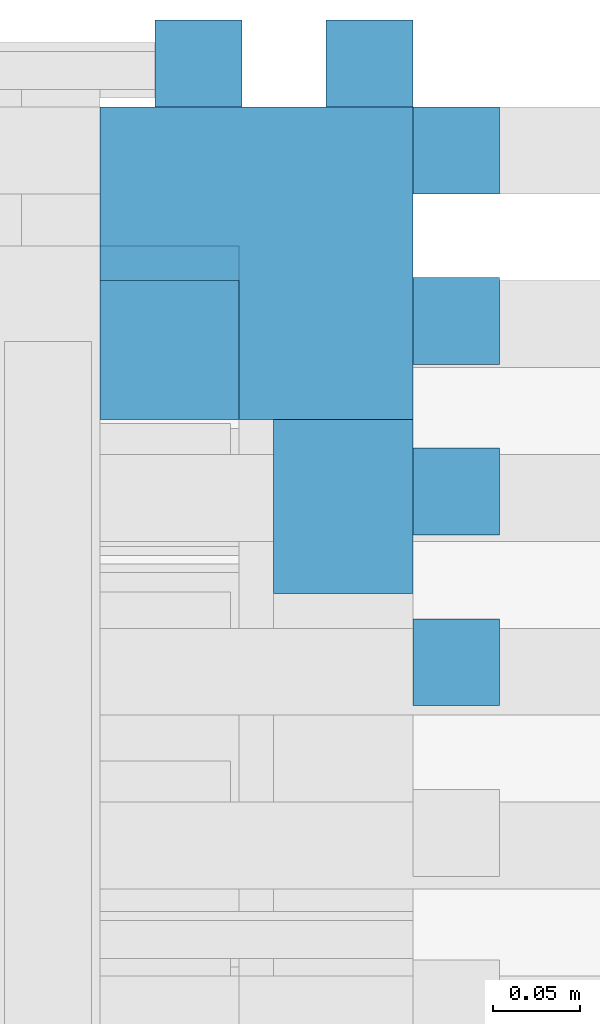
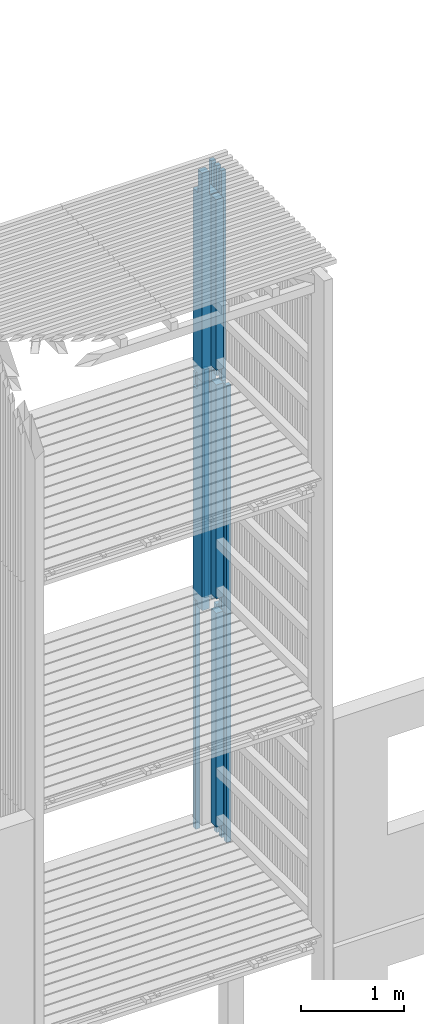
# One storey, part 57 of 182: 17 beams.
"""IFC2X3 building model written with IfcOpenShell, lengths in metres."""

from ifc_helpers import new_model, si_unit, frame, origin, place, context, project, spatial, faceted_brep, element, save


model = new_model("IFC2X3")

# Units and contexts
model_context = context("Model", 3, precision=1e-06, world=origin())
ifc_project = project(units=[si_unit("LENGTHUNIT", "METRE"), si_unit("PLANEANGLEUNIT", "RADIAN")], contexts=[model_context])

# Site, building, storey
site = spatial("IfcSite", under=ifc_project, CompositionType="ELEMENT")
building = spatial("IfcBuilding", under=site, CompositionType="ELEMENT")
storey = spatial("IfcBuildingStorey", under=building, Name="vs", CompositionType="ELEMENT", Elevation=-0.85)

# Beams
placement = place(None, origin())
beam_1_placement = place(placement, frame((16.67919731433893, 12.746895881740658, 2.575000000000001), z_axis=(-1.0, 0.0, 0.0), x_axis=(0.0, 0.0, 1.0)))
element("IfcBeam", 1, at=beam_1_placement, inside=storey, Name="Bardage", context=model_context, shape_type="Brep", body=[
    faceted_brep([(0.0, -0.025000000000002, 0.024999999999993), (0.0, 0.024999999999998, 0.024999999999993), (0.0, 0.024999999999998, -0.025000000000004), (0.0, -0.025000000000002, -0.025000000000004), (2.699961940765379, 0.025000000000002, -0.025000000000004), (2.699961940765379, 0.025000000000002, 0.024999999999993), (2.699961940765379, -0.025000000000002, 0.024999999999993), (2.699961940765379, -0.025000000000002, -0.025000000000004), (0.0, -0.025000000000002, -0.025000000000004), (0.0, 0.024999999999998, -0.025000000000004), (2.699961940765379, 0.025000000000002, -0.025000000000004), (2.699961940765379, -0.025000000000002, -0.025000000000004), (2.699961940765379, 0.025000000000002, -0.025000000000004), (0.0, 0.024999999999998, -0.025000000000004), (0.0, 0.024999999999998, 0.024999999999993), (2.699961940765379, 0.025000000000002, 0.024999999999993), (2.699961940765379, 0.025000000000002, 0.024999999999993), (0.0, 0.024999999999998, 0.024999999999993), (0.0, -0.025000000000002, 0.024999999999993), (2.699961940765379, -0.025000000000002, 0.024999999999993), (2.699961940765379, -0.025000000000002, 0.024999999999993), (0.0, -0.025000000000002, 0.024999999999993), (0.0, -0.025000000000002, -0.025000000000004), (2.699961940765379, -0.025000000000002, -0.025000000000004)], [[[0, 1, 2, 3]], [[4, 5, 6, 7]], [[8, 9, 10, 11]], [[12, 13, 14, 15]], [[16, 17, 18, 19]], [[20, 21, 22, 23]]]),
])
beam_2_placement = place(placement, frame((16.67919731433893, 12.746895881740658, 7.974999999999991), z_axis=(-1.0, 0.0, 0.0), x_axis=(0.0, 0.0, 1.0)))
element("IfcBeam", 2, at=beam_2_placement, inside=storey, Name="Bardage", context=model_context, shape_type="Brep", body=[
    faceted_brep([(2.479999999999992, -0.025000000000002, 0.024999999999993), (2.479999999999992, -0.025000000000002, -0.025000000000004), (2.479999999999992, 0.025000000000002, -0.025000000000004), (2.479999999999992, 0.025000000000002, 0.024999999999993), (0.0, 0.024999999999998, 0.024999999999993), (0.0, -0.025000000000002, 0.024999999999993), (2.479999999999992, -0.025000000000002, 0.024999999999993), (2.479999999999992, 0.025000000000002, 0.024999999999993), (0.0, -0.025000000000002, 0.024999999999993), (0.0, 0.024999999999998, 0.024999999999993), (0.0, 0.024999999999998, -0.025000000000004), (0.0, -0.025000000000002, -0.025000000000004), (0.0, 0.024999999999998, -0.025000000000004), (0.0, 0.024999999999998, 0.024999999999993), (2.479999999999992, 0.025000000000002, 0.024999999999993), (2.479999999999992, 0.025000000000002, -0.025000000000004), (0.0, -0.025000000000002, -0.025000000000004), (0.0, 0.024999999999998, -0.025000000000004), (2.479999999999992, 0.025000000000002, -0.025000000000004), (2.479999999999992, -0.025000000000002, -0.025000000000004), (2.479999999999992, -0.025000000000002, 0.024999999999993), (0.0, -0.025000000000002, 0.024999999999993), (0.0, -0.025000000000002, -0.025000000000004), (2.479999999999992, -0.025000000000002, -0.025000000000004)], [[[0, 1, 2, 3]], [[4, 5, 6, 7]], [[8, 9, 10, 11]], [[12, 13, 14, 15]], [[16, 17, 18, 19]], [[20, 21, 22, 23]]]),
])
beam_3_placement = place(placement, frame((16.67919731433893, 12.550532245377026, 2.575000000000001), z_axis=(-1.0, 0.0, 0.0), x_axis=(0.0, 0.0, 1.0)))
element("IfcBeam", 3, at=beam_3_placement, inside=storey, Name="Bardage", context=model_context, shape_type="Brep", body=[
    faceted_brep([(0.0, -0.025000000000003, 0.024999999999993), (0.0, 0.024999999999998, 0.024999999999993), (0.0, 0.024999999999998, -0.025000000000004), (0.0, -0.025000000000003, -0.025000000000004), (2.699961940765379, 0.024999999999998, -0.025000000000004), (2.699961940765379, 0.024999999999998, 0.024999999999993), (2.699961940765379, -0.025000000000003, 0.024999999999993), (2.699961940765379, -0.025000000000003, -0.025000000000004), (0.0, -0.025000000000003, -0.025000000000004), (0.0, 0.024999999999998, -0.025000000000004), (2.699961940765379, 0.024999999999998, -0.025000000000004), (2.699961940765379, -0.025000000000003, -0.025000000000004), (2.699961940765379, 0.024999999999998, -0.025000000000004), (0.0, 0.024999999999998, -0.025000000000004), (0.0, 0.024999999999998, 0.024999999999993), (2.699961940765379, 0.024999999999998, 0.024999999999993), (2.699961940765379, 0.024999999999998, 0.024999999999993), (0.0, 0.024999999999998, 0.024999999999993), (0.0, -0.025000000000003, 0.024999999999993), (2.699961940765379, -0.025000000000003, 0.024999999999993), (2.699961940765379, -0.025000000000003, 0.024999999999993), (0.0, -0.025000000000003, 0.024999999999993), (0.0, -0.025000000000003, -0.025000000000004), (2.699961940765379, -0.025000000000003, -0.025000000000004)], [[[0, 1, 2, 3]], [[4, 5, 6, 7]], [[8, 9, 10, 11]], [[12, 13, 14, 15]], [[16, 17, 18, 19]], [[20, 21, 22, 23]]]),
])
beam_4_placement = place(placement, frame((16.531015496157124, 12.895077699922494, 2.575000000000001), z_axis=(0.0, -1.0, 0.0), x_axis=(0.0, 0.0, 1.0)))
element("IfcBeam", 4, at=beam_4_placement, inside=storey, Name="Bardage", context=model_context, shape_type="Brep", body=[
    faceted_brep([(2.699961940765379, -0.024999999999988, 0.025000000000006), (2.699961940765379, -0.025000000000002, -0.024999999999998), (2.699961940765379, 0.024999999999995, -0.025000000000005), (2.699961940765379, 0.025000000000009, 0.024999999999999), (0.0, -0.024999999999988, 0.025000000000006), (2.699961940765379, -0.024999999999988, 0.025000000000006), (2.699961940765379, 0.025000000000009, 0.024999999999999), (0.0, 0.025000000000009, 0.024999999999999), (0.0, -0.024999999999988, 0.025000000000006), (0.0, 0.025000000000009, 0.024999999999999), (0.0, 0.024999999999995, -0.025000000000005), (0.0, -0.025000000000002, -0.024999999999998), (0.0, -0.024999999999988, 0.025000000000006), (0.0, -0.025000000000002, -0.024999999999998), (2.699961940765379, -0.025000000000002, -0.024999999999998), (2.699961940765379, -0.024999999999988, 0.025000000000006), (0.0, -0.025000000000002, -0.024999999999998), (0.0, 0.024999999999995, -0.025000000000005), (2.699961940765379, 0.024999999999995, -0.025000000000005), (2.699961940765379, -0.025000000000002, -0.024999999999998), (0.0, 0.024999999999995, -0.025000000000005), (0.0, 0.025000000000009, 0.024999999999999), (2.699961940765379, 0.025000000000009, 0.024999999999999), (2.699961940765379, 0.024999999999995, -0.025000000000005)], [[[0, 1, 2, 3]], [[4, 5, 6, 7]], [[8, 9, 10, 11]], [[12, 13, 14, 15]], [[16, 17, 18, 19]], [[20, 21, 22, 23]]]),
])
beam_5_placement = place(placement, frame((16.67919731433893, 12.845077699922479, 5.274999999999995), z_axis=(-1.0, 0.0, 0.0), x_axis=(0.0, 0.0, 1.0)))
element("IfcBeam", 5, at=beam_5_placement, inside=storey, Name="Bardage", context=model_context, shape_type="Brep", body=[
    faceted_brep([(1e-15, -0.025000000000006, 0.024999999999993), (1e-15, 0.024999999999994, 0.024999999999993), (1e-15, 0.024999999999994, -0.025000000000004), (1e-15, -0.025000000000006, -0.025000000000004), (2.699999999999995, -0.025000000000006, -0.025000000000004), (2.699999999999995, 0.024999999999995, -0.025000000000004), (2.699999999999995, 0.024999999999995, 0.024999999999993), (2.699999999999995, -0.025000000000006, 0.024999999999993), (1e-15, -0.025000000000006, 0.024999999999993), (1e-15, -0.025000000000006, -0.025000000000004), (2.699999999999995, -0.025000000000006, -0.025000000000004), (2.699999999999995, -0.025000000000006, 0.024999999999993), (2.699999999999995, -0.025000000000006, -0.025000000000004), (1e-15, -0.025000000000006, -0.025000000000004), (1e-15, 0.024999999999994, -0.025000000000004), (2.699999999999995, 0.024999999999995, -0.025000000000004), (2.699999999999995, 0.024999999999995, -0.025000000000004), (1e-15, 0.024999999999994, -0.025000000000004), (1e-15, 0.024999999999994, 0.024999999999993), (2.699999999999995, 0.024999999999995, 0.024999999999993), (2.699999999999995, 0.024999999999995, 0.024999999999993), (1e-15, 0.024999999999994, 0.024999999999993), (1e-15, -0.025000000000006, 0.024999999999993), (2.699999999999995, -0.025000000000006, 0.024999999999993)], [[[0, 1, 2, 3]], [[4, 5, 6, 7]], [[8, 9, 10, 11]], [[12, 13, 14, 15]], [[16, 17, 18, 19]], [[20, 21, 22, 23]]]),
])
beam_6_placement = place(placement, frame((16.67919731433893, 12.648714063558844, 2.575000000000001), z_axis=(-1.0, 0.0, 0.0), x_axis=(0.0, 0.0, 1.0)))
element("IfcBeam", 6, at=beam_6_placement, inside=storey, Name="Bardage", context=model_context, shape_type="Brep", body=[
    faceted_brep([(0.0, -0.025000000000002, 0.024999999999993), (0.0, 0.024999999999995, 0.024999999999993), (0.0, 0.024999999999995, -0.025000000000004), (0.0, -0.025000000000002, -0.025000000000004), (2.699961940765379, 0.024999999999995, -0.025000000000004), (2.699961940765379, 0.024999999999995, 0.024999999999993), (2.699961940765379, -0.025000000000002, 0.024999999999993), (2.699961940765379, -0.025000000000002, -0.025000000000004), (0.0, -0.025000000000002, -0.025000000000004), (0.0, 0.024999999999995, -0.025000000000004), (2.699961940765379, 0.024999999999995, -0.025000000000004), (2.699961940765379, -0.025000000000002, -0.025000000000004), (2.699961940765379, 0.024999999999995, -0.025000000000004), (0.0, 0.024999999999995, -0.025000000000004), (0.0, 0.024999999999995, 0.024999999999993), (2.699961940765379, 0.024999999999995, 0.024999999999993), (2.699961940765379, 0.024999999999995, 0.024999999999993), (0.0, 0.024999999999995, 0.024999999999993), (0.0, -0.025000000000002, 0.024999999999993), (2.699961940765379, -0.025000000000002, 0.024999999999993), (2.699961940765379, -0.025000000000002, 0.024999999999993), (0.0, -0.025000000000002, 0.024999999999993), (0.0, -0.025000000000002, -0.025000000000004), (2.699961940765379, -0.025000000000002, -0.025000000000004)], [[[0, 1, 2, 3]], [[4, 5, 6, 7]], [[8, 9, 10, 11]], [[12, 13, 14, 15]], [[16, 17, 18, 19]], [[20, 21, 22, 23]]]),
])
beam_7_placement = place(placement, frame((16.564197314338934, 12.780077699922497, 7.979999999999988), z_axis=(0.0, -1.0, 0.0), x_axis=(0.0, 0.0, 1.0)))
element("IfcBeam", 7, at=beam_7_placement, inside=storey, Name="Poteau", context=model_context, shape_type="Brep", body=[
    faceted_brep([(2.474999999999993, 0.009999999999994, 0.089999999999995), (2.474999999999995, 0.009999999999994, 0.009999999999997), (2.474999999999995, 0.090000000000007, 0.009999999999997), (2.474999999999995, 0.090000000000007, 0.089999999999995), (2.194999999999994, 0.009999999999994, 0.089999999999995), (2.194999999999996, 0.009999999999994, 0.009999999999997), (2.474999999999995, 0.009999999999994, 0.009999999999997), (2.474999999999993, 0.009999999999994, 0.089999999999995), (2.194999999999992, -0.09, 0.089999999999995), (2.194999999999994, -0.09, -0.090000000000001), (2.194999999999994, 0.090000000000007, -0.090000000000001), (2.194999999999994, 0.090000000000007, 0.009999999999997), (2.194999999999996, 0.009999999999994, 0.009999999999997), (2.194999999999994, 0.009999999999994, 0.089999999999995), (2.474999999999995, 0.090000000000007, 0.009999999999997), (2.474999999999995, 0.009999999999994, 0.009999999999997), (2.194999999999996, 0.009999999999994, 0.009999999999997), (2.194999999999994, 0.090000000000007, 0.009999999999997), (0.059999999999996, 0.090000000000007, -0.010000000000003), (-1e-15, 0.090000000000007, -0.010000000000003), (-1e-15, 0.090000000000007, 0.089999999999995), (2.474999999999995, 0.090000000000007, 0.089999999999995), (2.474999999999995, 0.090000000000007, 0.009999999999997), (2.194999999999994, 0.090000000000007, 0.009999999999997), (2.194999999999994, 0.090000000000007, -0.090000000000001), (0.059999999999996, 0.090000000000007, -0.090000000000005), (0.139999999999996, -0.09, 0.089999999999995), (0.139999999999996, 0.009999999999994, 0.089999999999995), (0.139999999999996, 0.009999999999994, -0.090000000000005), (0.139999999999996, -0.09, -0.090000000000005), (-1e-15, 0.090000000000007, -0.010000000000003), (0.059999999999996, 0.090000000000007, -0.010000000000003), (0.059999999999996, 0.009999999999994, -0.009999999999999), (-1e-15, 0.009999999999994, -0.010000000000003), (-1e-15, 0.090000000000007, 0.089999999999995), (-1e-15, 0.090000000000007, -0.010000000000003), (-1e-15, 0.009999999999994, -0.010000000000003), (-1e-15, 0.009999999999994, 0.089999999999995), (0.139999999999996, 0.009999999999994, -0.090000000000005), (0.139999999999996, 0.009999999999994, 0.089999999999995), (-1e-15, 0.009999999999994, 0.089999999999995), (-1e-15, 0.009999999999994, -0.010000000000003), (0.059999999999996, 0.009999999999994, -0.009999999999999), (0.059999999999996, 0.009999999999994, -0.090000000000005), (0.059999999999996, 0.009999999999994, -0.090000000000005), (0.059999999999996, 0.009999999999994, -0.009999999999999), (0.059999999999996, 0.090000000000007, -0.010000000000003), (0.059999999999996, 0.090000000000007, -0.090000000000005), (0.139999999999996, -0.09, -0.090000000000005), (0.139999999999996, 0.009999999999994, -0.090000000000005), (0.059999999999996, 0.009999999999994, -0.090000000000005), (0.059999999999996, 0.090000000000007, -0.090000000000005), (2.194999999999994, 0.090000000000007, -0.090000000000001), (2.194999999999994, -0.09, -0.090000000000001), (2.194999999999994, -0.09, -0.090000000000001), (2.194999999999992, -0.09, 0.089999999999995), (0.139999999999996, -0.09, 0.089999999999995), (0.139999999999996, -0.09, -0.090000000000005), (-1e-15, 0.090000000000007, 0.089999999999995), (-1e-15, 0.009999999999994, 0.089999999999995), (0.139999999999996, 0.009999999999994, 0.089999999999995), (0.139999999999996, -0.09, 0.089999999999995), (2.194999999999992, -0.09, 0.089999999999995), (2.194999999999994, 0.009999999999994, 0.089999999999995), (2.474999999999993, 0.009999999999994, 0.089999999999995), (2.474999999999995, 0.090000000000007, 0.089999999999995)], [[[0, 1, 2, 3]], [[4, 5, 6, 7]], [[8, 9, 10, 11, 12, 13]], [[14, 15, 16, 17]], [[18, 19, 20, 21, 22, 23, 24, 25]], [[26, 27, 28, 29]], [[30, 31, 32, 33]], [[34, 35, 36, 37]], [[38, 39, 40, 41, 42, 43]], [[44, 45, 46, 47]], [[48, 49, 50, 51, 52, 53]], [[54, 55, 56, 57]], [[58, 59, 60, 61, 62, 63, 64, 65]]]),
])
beam_8_placement = place(placement, frame((16.67919731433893, 12.648714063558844, 5.274999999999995), z_axis=(-1.0, 0.0, 0.0), x_axis=(0.0, 0.0, 1.0)))
element("IfcBeam", 8, at=beam_8_placement, inside=storey, Name="Bardage", context=model_context, shape_type="Brep", body=[
    faceted_brep([(1e-15, -0.025000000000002, 0.024999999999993), (1e-15, 0.024999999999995, 0.024999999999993), (1e-15, 0.024999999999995, -0.025000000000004), (1e-15, -0.025000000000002, -0.025000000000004), (2.699999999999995, -0.025000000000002, -0.025000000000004), (2.699999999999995, 0.024999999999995, -0.025000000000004), (2.699999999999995, 0.024999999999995, 0.024999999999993), (2.699999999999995, -0.025000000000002, 0.024999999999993), (1e-15, -0.025000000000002, 0.024999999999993), (1e-15, -0.025000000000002, -0.025000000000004), (2.699999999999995, -0.025000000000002, -0.025000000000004), (2.699999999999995, -0.025000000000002, 0.024999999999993), (2.699999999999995, -0.025000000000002, -0.025000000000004), (1e-15, -0.025000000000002, -0.025000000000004), (1e-15, 0.024999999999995, -0.025000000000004), (2.699999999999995, 0.024999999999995, -0.025000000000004), (2.699999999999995, 0.024999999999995, -0.025000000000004), (1e-15, 0.024999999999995, -0.025000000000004), (1e-15, 0.024999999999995, 0.024999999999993), (2.699999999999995, 0.024999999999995, 0.024999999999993), (2.699999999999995, 0.024999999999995, 0.024999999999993), (1e-15, 0.024999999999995, 0.024999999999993), (1e-15, -0.025000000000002, 0.024999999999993), (2.699999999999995, -0.025000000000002, 0.024999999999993)], [[[0, 1, 2, 3]], [[4, 5, 6, 7]], [[8, 9, 10, 11]], [[12, 13, 14, 15]], [[16, 17, 18, 19]], [[20, 21, 22, 23]]]),
])
beam_9_placement = place(placement, frame((16.614197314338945, 12.640077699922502, 2.746999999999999), z_axis=(0.0, -1.0, 0.0), x_axis=(0.0, 0.0, 1.0)))
element("IfcBeam", 9, at=beam_9_placement, inside=storey, Name="Support bardage", context=model_context, shape_type="Brep", body=[
    faceted_brep([(2.527961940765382, -0.039999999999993, -0.05), (2.527961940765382, 0.04000000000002, -0.05), (2.527961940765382, 0.04000000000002, 0.050000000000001), (2.527961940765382, -0.039999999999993, 0.050000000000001), (0.0, -0.039999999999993, 0.050000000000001), (0.0, -0.039999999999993, -0.05), (2.527961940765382, -0.039999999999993, -0.05), (2.527961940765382, -0.039999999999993, 0.050000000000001), (0.0, -0.039999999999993, -0.05), (0.0, -0.039999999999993, 0.050000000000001), (0.0, 0.04000000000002, 0.050000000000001), (0.0, 0.04000000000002, -0.05), (2.527961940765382, -0.039999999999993, -0.05), (0.0, -0.039999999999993, -0.05), (0.0, 0.04000000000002, -0.05), (2.527961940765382, 0.04000000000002, -0.05), (2.527961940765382, 0.04000000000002, -0.05), (0.0, 0.04000000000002, -0.05), (0.0, 0.04000000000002, 0.050000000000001), (2.527961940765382, 0.04000000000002, 0.050000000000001), (2.527961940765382, 0.04000000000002, 0.050000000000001), (0.0, 0.04000000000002, 0.050000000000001), (0.0, -0.039999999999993, 0.050000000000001), (2.527961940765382, -0.039999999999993, 0.050000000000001)], [[[0, 1, 2, 3]], [[4, 5, 6, 7]], [[8, 9, 10, 11]], [[12, 13, 14, 15]], [[16, 17, 18, 19]], [[20, 21, 22, 23]]]),
])
beam_10_placement = place(placement, frame((16.531015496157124, 12.895077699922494, 5.274999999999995), z_axis=(0.0, -1.0, 0.0), x_axis=(0.0, 0.0, 1.0)))
element("IfcBeam", 10, at=beam_10_placement, inside=storey, Name="Bardage", context=model_context, shape_type="Brep", body=[
    faceted_brep([(2.699999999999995, 0.025000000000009, 0.024999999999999), (2.699999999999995, -0.024999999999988, 0.025000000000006), (2.699999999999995, -0.025000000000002, -0.024999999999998), (2.699999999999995, 0.024999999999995, -0.025000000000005), (1e-15, 0.025000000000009, 0.024999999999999), (2.699999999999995, 0.025000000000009, 0.024999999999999), (2.699999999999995, 0.024999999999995, -0.025000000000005), (1e-15, 0.024999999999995, -0.025000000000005), (1e-15, -0.024999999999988, 0.025000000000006), (1e-15, 0.025000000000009, 0.024999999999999), (1e-15, 0.024999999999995, -0.025000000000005), (1e-15, -0.025000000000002, -0.024999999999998), (1e-15, 0.025000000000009, 0.024999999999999), (1e-15, -0.024999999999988, 0.025000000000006), (2.699999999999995, -0.024999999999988, 0.025000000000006), (2.699999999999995, 0.025000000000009, 0.024999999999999), (1e-15, -0.024999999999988, 0.025000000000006), (1e-15, -0.025000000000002, -0.024999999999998), (2.699999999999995, -0.025000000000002, -0.024999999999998), (2.699999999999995, -0.024999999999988, 0.025000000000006), (1e-15, -0.025000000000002, -0.024999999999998), (1e-15, 0.024999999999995, -0.025000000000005), (2.699999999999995, 0.024999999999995, -0.025000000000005), (2.699999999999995, -0.025000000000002, -0.024999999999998)], [[[0, 1, 2, 3]], [[4, 5, 6, 7]], [[8, 9, 10, 11]], [[12, 13, 14, 15]], [[16, 17, 18, 19]], [[20, 21, 22, 23]]]),
])
beam_11_placement = place(placement, frame((16.62919731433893, 12.895077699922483, 5.274999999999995), z_axis=(0.0, -1.0, 0.0), x_axis=(0.0, 0.0, 1.0)))
element("IfcBeam", 11, at=beam_11_placement, inside=storey, Name="Bardage", context=model_context, shape_type="Brep", body=[
    faceted_brep([(2.699999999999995, 0.025000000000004, 0.025000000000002), (2.699999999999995, -0.025000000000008, 0.025000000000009), (2.699999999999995, -0.025000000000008, -0.024999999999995), (2.699999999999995, 0.02499999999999, -0.025000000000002), (1e-15, 0.025000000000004, 0.025000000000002), (2.699999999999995, 0.025000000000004, 0.025000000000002), (2.699999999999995, 0.02499999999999, -0.025000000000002), (1e-15, 0.02499999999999, -0.025000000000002), (1e-15, -0.025000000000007, 0.025000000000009), (1e-15, 0.025000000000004, 0.025000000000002), (1e-15, 0.02499999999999, -0.025000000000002), (1e-15, -0.025000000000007, -0.024999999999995), (1e-15, 0.025000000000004, 0.025000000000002), (1e-15, -0.025000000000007, 0.025000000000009), (2.699999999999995, -0.025000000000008, 0.025000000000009), (2.699999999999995, 0.025000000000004, 0.025000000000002), (1e-15, -0.025000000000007, 0.025000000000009), (1e-15, -0.025000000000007, -0.024999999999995), (2.699999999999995, -0.025000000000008, -0.024999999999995), (2.699999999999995, -0.025000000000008, 0.025000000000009), (1e-15, -0.025000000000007, -0.024999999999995), (1e-15, 0.02499999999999, -0.025000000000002), (2.699999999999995, 0.02499999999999, -0.025000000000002), (2.699999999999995, -0.025000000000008, -0.024999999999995)], [[[0, 1, 2, 3]], [[4, 5, 6, 7]], [[8, 9, 10, 11]], [[12, 13, 14, 15]], [[16, 17, 18, 19]], [[20, 21, 22, 23]]]),
])
beam_12_placement = place(placement, frame((16.564197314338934, 12.780077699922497, 5.279999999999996), z_axis=(0.0, -1.0, 0.0), x_axis=(0.0, 0.0, 1.0)))
element("IfcBeam", 12, at=beam_12_placement, inside=storey, Name="Poteau", context=model_context, shape_type="Brep", body=[
    faceted_brep([(0.139999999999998, -0.09, 0.089999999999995), (0.139999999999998, 0.009999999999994, 0.089999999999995), (0.139999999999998, 0.009999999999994, -0.090000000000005), (0.139999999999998, -0.09, -0.090000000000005), (0.059999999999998, 0.090000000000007, -0.010000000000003), (0.059999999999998, 0.009999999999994, -0.009999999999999), (-1e-15, 0.009999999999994, -0.009999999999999), (-1e-15, 0.090000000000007, -0.009999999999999), (-1e-15, 0.090000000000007, 0.089999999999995), (-1e-15, 0.090000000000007, -0.009999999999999), (-1e-15, 0.009999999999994, -0.009999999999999), (-1e-15, 0.009999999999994, 0.089999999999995), (0.139999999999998, 0.009999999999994, -0.090000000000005), (0.139999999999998, 0.009999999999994, 0.089999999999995), (-1e-15, 0.009999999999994, 0.089999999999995), (-1e-15, 0.009999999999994, -0.009999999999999), (0.059999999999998, 0.009999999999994, -0.009999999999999), (0.059999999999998, 0.009999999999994, -0.090000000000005), (0.059999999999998, 0.009999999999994, -0.090000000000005), (0.059999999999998, 0.009999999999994, -0.009999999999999), (0.059999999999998, 0.090000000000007, -0.010000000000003), (0.059999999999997, 0.090000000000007, -0.090000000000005), (0.139999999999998, -0.09, -0.090000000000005), (0.139999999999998, 0.009999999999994, -0.090000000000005), (0.059999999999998, 0.009999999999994, -0.090000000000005), (0.059999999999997, 0.090000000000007, -0.090000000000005), (2.559999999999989, 0.090000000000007, -0.090000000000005), (2.559999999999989, -0.09, -0.090000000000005), (2.559999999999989, -0.09, 0.089999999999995), (0.139999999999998, -0.09, 0.089999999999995), (0.139999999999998, -0.09, -0.090000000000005), (2.559999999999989, -0.09, -0.090000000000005), (2.559999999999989, 0.090000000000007, -0.010000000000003), (2.559999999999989, 0.090000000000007, -0.090000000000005), (0.059999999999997, 0.090000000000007, -0.090000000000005), (0.059999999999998, 0.090000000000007, -0.010000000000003), (-1e-15, 0.090000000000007, -0.009999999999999), (-1e-15, 0.090000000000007, 0.089999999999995), (2.69999999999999, 0.090000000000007, 0.089999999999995), (2.69999999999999, 0.090000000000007, -0.009999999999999), (2.69999999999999, 0.009999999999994, 0.089999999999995), (2.69999999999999, 0.090000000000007, 0.089999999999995), (-1e-15, 0.090000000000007, 0.089999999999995), (-1e-15, 0.009999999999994, 0.089999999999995), (0.139999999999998, 0.009999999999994, 0.089999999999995), (0.139999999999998, -0.09, 0.089999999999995), (2.559999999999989, -0.09, 0.089999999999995), (2.559999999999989, 0.009999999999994, 0.089999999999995), (2.559999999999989, 0.090000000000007, -0.010000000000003), (2.69999999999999, 0.090000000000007, -0.009999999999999), (2.69999999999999, 0.009999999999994, -0.010000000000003), (2.559999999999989, 0.009999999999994, -0.010000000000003), (2.559999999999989, 0.009999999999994, 0.089999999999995), (2.559999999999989, -0.09, 0.089999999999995), (2.559999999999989, -0.09, -0.090000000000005), (2.559999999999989, 0.090000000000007, -0.090000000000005), (2.559999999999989, 0.090000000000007, -0.010000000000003), (2.559999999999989, 0.009999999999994, -0.010000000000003), (2.69999999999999, 0.009999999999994, 0.089999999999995), (2.559999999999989, 0.009999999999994, 0.089999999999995), (2.559999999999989, 0.009999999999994, -0.010000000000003), (2.69999999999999, 0.009999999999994, -0.010000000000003), (2.69999999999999, 0.090000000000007, 0.089999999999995), (2.69999999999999, 0.009999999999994, 0.089999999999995), (2.69999999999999, 0.009999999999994, -0.010000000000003), (2.69999999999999, 0.090000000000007, -0.009999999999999)], [[[0, 1, 2, 3]], [[4, 5, 6, 7]], [[8, 9, 10, 11]], [[12, 13, 14, 15, 16, 17]], [[18, 19, 20, 21]], [[22, 23, 24, 25, 26, 27]], [[28, 29, 30, 31]], [[32, 33, 34, 35, 36, 37, 38, 39]], [[40, 41, 42, 43, 44, 45, 46, 47]], [[48, 49, 50, 51]], [[52, 53, 54, 55, 56, 57]], [[58, 59, 60, 61]], [[62, 63, 64, 65]]]),
])
beam_13_placement = place(placement, frame((16.67919731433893, 12.845077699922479, 7.974999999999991), z_axis=(-1.0, 0.0, 0.0), x_axis=(0.0, 0.0, 1.0)))
element("IfcBeam", 13, at=beam_13_placement, inside=storey, Name="Bardage", context=model_context, shape_type="Brep", body=[
    faceted_brep([(2.479999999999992, -0.025000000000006, 0.024999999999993), (2.479999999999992, -0.025000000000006, -0.025000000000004), (2.479999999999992, 0.024999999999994, -0.025000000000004), (2.479999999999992, 0.024999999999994, 0.024999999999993), (0.0, 0.024999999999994, 0.024999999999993), (0.0, -0.025000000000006, 0.024999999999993), (2.479999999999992, -0.025000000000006, 0.024999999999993), (2.479999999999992, 0.024999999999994, 0.024999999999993), (0.0, -0.025000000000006, 0.024999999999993), (0.0, 0.024999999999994, 0.024999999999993), (0.0, 0.024999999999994, -0.025000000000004), (0.0, -0.025000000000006, -0.025000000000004), (0.0, 0.024999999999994, -0.025000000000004), (0.0, 0.024999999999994, 0.024999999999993), (2.479999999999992, 0.024999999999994, 0.024999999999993), (2.479999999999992, 0.024999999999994, -0.025000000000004), (0.0, -0.025000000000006, -0.025000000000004), (0.0, 0.024999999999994, -0.025000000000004), (2.479999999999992, 0.024999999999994, -0.025000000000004), (2.479999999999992, -0.025000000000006, -0.025000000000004), (2.479999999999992, -0.025000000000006, 0.024999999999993), (0.0, -0.025000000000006, 0.024999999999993), (0.0, -0.025000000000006, -0.025000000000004), (2.479999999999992, -0.025000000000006, -0.025000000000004)], [[[0, 1, 2, 3]], [[4, 5, 6, 7]], [[8, 9, 10, 11]], [[12, 13, 14, 15]], [[16, 17, 18, 19]], [[20, 21, 22, 23]]]),
])
beam_14_placement = place(placement, frame((16.614197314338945, 12.640077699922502, 5.446999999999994), z_axis=(0.0, -1.0, 0.0), x_axis=(0.0, 0.0, 1.0)))
element("IfcBeam", 14, at=beam_14_placement, inside=storey, Name="Support bardage", context=model_context, shape_type="Brep", body=[
    faceted_brep([(2.527999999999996, -0.039999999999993, 0.050000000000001), (2.527999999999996, -0.039999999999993, -0.05), (2.527999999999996, 0.04000000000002, -0.05), (2.527999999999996, 0.04000000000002, 0.050000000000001), (0.0, 0.04000000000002, 0.050000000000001), (0.0, -0.039999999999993, 0.050000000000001), (2.527999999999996, -0.039999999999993, 0.050000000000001), (2.527999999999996, 0.04000000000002, 0.050000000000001), (0.0, -0.039999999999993, 0.050000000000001), (0.0, 0.04000000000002, 0.050000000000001), (0.0, 0.04000000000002, -0.05), (0.0, -0.039999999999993, -0.05), (2.527999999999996, -0.039999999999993, 0.050000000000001), (0.0, -0.039999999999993, 0.050000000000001), (0.0, -0.039999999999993, -0.05), (2.527999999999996, -0.039999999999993, -0.05), (2.527999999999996, -0.039999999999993, -0.05), (0.0, -0.039999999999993, -0.05), (0.0, 0.04000000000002, -0.05), (2.527999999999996, 0.04000000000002, -0.05), (2.527999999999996, 0.04000000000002, -0.05), (0.0, 0.04000000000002, -0.05), (0.0, 0.04000000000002, 0.050000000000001), (2.527999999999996, 0.04000000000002, 0.050000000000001)], [[[0, 1, 2, 3]], [[4, 5, 6, 7]], [[8, 9, 10, 11]], [[12, 13, 14, 15]], [[16, 17, 18, 19]], [[20, 21, 22, 23]]]),
])
beam_15_placement = place(placement, frame((16.614197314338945, 12.640077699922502, 8.146999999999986), z_axis=(0.0, -1.0, 0.0), x_axis=(0.0, 0.0, 1.0)))
element("IfcBeam", 15, at=beam_15_placement, inside=storey, Name="Support bardage", context=model_context, shape_type="Brep", body=[
    faceted_brep([(2.017999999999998, -0.039999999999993, -0.05), (2.017999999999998, 0.04000000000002, -0.05), (2.017999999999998, 0.04000000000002, 0.050000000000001), (2.017999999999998, -0.039999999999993, 0.050000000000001), (1e-15, -0.039999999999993, 0.050000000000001), (1e-15, 0.04000000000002, 0.050000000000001), (1e-15, 0.04000000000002, -0.05), (1e-15, -0.039999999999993, -0.05), (1e-15, -0.039999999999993, 0.050000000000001), (1e-15, -0.039999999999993, -0.05), (2.017999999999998, -0.039999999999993, -0.05), (2.017999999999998, -0.039999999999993, 0.050000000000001), (1e-15, 0.04000000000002, 0.050000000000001), (1e-15, -0.039999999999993, 0.050000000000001), (2.017999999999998, -0.039999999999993, 0.050000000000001), (2.017999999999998, 0.04000000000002, 0.050000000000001), (1e-15, 0.04000000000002, -0.05), (1e-15, 0.04000000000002, 0.050000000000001), (2.017999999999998, 0.04000000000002, 0.050000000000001), (2.017999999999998, 0.04000000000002, -0.05), (1e-15, -0.039999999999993, -0.05), (1e-15, 0.04000000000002, -0.05), (2.017999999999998, 0.04000000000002, -0.05), (2.017999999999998, -0.039999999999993, -0.05)], [[[0, 1, 2, 3]], [[4, 5, 6, 7]], [[8, 9, 10, 11]], [[12, 13, 14, 15]], [[16, 17, 18, 19]], [[20, 21, 22, 23]]]),
])
beam_16_placement = place(placement, frame((16.67919731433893, 12.550532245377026, 5.274999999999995), z_axis=(-1.0, 0.0, 0.0), x_axis=(0.0, 0.0, 1.0)))
element("IfcBeam", 16, at=beam_16_placement, inside=storey, Name="Bardage", context=model_context, shape_type="Brep", body=[
    faceted_brep([(1e-15, -0.025000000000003, 0.024999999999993), (1e-15, 0.024999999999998, 0.024999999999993), (1e-15, 0.024999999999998, -0.025000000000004), (1e-15, -0.025000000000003, -0.025000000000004), (2.699999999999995, -0.025000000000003, -0.025000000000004), (2.699999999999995, 0.024999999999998, -0.025000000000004), (2.699999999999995, 0.024999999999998, 0.024999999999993), (2.699999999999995, -0.025000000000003, 0.024999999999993), (1e-15, -0.025000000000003, 0.024999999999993), (1e-15, -0.025000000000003, -0.025000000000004), (2.699999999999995, -0.025000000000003, -0.025000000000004), (2.699999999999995, -0.025000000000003, 0.024999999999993), (2.699999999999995, -0.025000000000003, -0.025000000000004), (1e-15, -0.025000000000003, -0.025000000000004), (1e-15, 0.024999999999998, -0.025000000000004), (2.699999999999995, 0.024999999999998, -0.025000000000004), (2.699999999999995, 0.024999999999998, -0.025000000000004), (1e-15, 0.024999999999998, -0.025000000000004), (1e-15, 0.024999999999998, 0.024999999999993), (2.699999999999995, 0.024999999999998, 0.024999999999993), (2.699999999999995, 0.024999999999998, 0.024999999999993), (1e-15, 0.024999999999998, 0.024999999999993), (1e-15, -0.025000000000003, 0.024999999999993), (2.699999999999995, -0.025000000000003, 0.024999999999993)], [[[0, 1, 2, 3]], [[4, 5, 6, 7]], [[8, 9, 10, 11]], [[12, 13, 14, 15]], [[16, 17, 18, 19]], [[20, 21, 22, 23]]]),
])
beam_17_placement = place(placement, frame((16.67919731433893, 12.648714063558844, 7.974999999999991), z_axis=(-1.0, 0.0, 0.0), x_axis=(0.0, 0.0, 1.0)))
element("IfcBeam", 17, at=beam_17_placement, inside=storey, Name="Bardage", context=model_context, shape_type="Brep", body=[
    faceted_brep([(2.479999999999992, -0.025000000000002, 0.024999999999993), (2.479999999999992, -0.025000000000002, -0.025000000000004), (2.479999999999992, 0.024999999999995, -0.025000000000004), (2.479999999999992, 0.024999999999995, 0.024999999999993), (0.0, 0.024999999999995, 0.024999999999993), (0.0, -0.025000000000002, 0.024999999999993), (2.479999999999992, -0.025000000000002, 0.024999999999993), (2.479999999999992, 0.024999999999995, 0.024999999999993), (0.0, -0.025000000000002, 0.024999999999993), (0.0, 0.024999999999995, 0.024999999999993), (0.0, 0.024999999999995, -0.025000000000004), (0.0, -0.025000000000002, -0.025000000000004), (0.0, 0.024999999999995, -0.025000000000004), (0.0, 0.024999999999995, 0.024999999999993), (2.479999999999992, 0.024999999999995, 0.024999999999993), (2.479999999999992, 0.024999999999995, -0.025000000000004), (0.0, -0.025000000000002, -0.025000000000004), (0.0, 0.024999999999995, -0.025000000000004), (2.479999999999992, 0.024999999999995, -0.025000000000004), (2.479999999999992, -0.025000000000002, -0.025000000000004), (2.479999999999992, -0.025000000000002, 0.024999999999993), (0.0, -0.025000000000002, 0.024999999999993), (0.0, -0.025000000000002, -0.025000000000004), (2.479999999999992, -0.025000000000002, -0.025000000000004)], [[[0, 1, 2, 3]], [[4, 5, 6, 7]], [[8, 9, 10, 11]], [[12, 13, 14, 15]], [[16, 17, 18, 19]], [[20, 21, 22, 23]]]),
])

save(model, "model.ifc")
